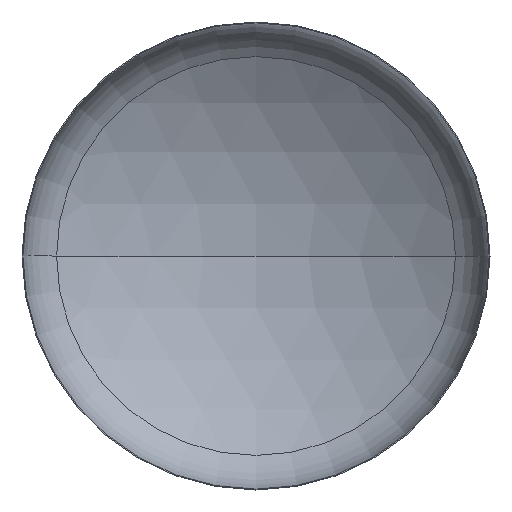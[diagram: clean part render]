
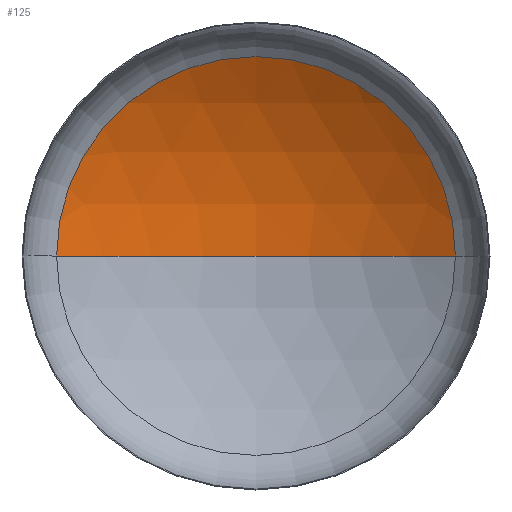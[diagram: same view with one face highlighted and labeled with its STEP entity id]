
A CAD part, front view. The second image highlights one B-rep face of the part: STEP entity #125.
In plain terms, the highlighted spherical face has radius 4800 mm.
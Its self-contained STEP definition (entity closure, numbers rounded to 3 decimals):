
#1 = CARTESIAN_POINT ( 'NONE',  ( 2556.697, 822.863, 0. ) ) ;
#23 = CARTESIAN_POINT ( 'NONE',  ( -2556.697, 822.863, 0. ) ) ;
#64 = AXIS2_PLACEMENT_3D ( 'NONE', #333, #194, #352 ) ;
#68 = AXIS2_PLACEMENT_3D ( 'NONE', #92, #308, #155 ) ;
#69 = DIRECTION ( 'NONE',  ( 0., 0., -1. ) ) ;
#72 = AXIS2_PLACEMENT_3D ( 'NONE', #215, #349, #267 ) ;
#92 = CARTESIAN_POINT ( 'NONE',  ( 0., -3239.562, 0. ) ) ;
#95 = VERTEX_POINT ( 'NONE', #23 ) ;
#99 = ORIENTED_EDGE ( 'NONE', *, *, #154, .T. ) ;
#102 = AXIS2_PLACEMENT_3D ( 'NONE', #301, #69, #127 ) ;
#106 = EDGE_LOOP ( 'NONE', ( #389, #124, #99 ) ) ;
#124 = ORIENTED_EDGE ( 'NONE', *, *, #157, .T. ) ;
#125 = ADVANCED_FACE ( 'NONE', ( #249 ), #310, .F. ) ;
#127 = DIRECTION ( 'NONE',  ( -1., 0., 0. ) ) ;
#133 = VERTEX_POINT ( 'NONE', #1 ) ;
#154 = EDGE_CURVE ( 'NONE', #133, #95, #242, .T. ) ;
#155 = DIRECTION ( 'NONE',  ( -1., 0., 0. ) ) ;
#157 = EDGE_CURVE ( 'NONE', #330, #133, #357, .T. ) ;
#165 = EDGE_CURVE ( 'NONE', #330, #95, #293, .T. ) ;
#194 = DIRECTION ( 'NONE',  ( 0., 0., 1. ) ) ;
#215 = CARTESIAN_POINT ( 'NONE',  ( 0., 822.863, 0. ) ) ;
#242 = CIRCLE ( 'NONE', #72, 2556.697 ) ;
#249 = FACE_OUTER_BOUND ( 'NONE', #106, .T. ) ;
#267 = DIRECTION ( 'NONE',  ( 1., 0., 0. ) ) ;
#293 = CIRCLE ( 'NONE', #64, 4800. ) ;
#301 = CARTESIAN_POINT ( 'NONE',  ( 0., -3239.562, 0. ) ) ;
#308 = DIRECTION ( 'NONE',  ( 0., 0., -1. ) ) ;
#310 = SPHERICAL_SURFACE ( 'NONE', #102, 4800. ) ;
#320 = CARTESIAN_POINT ( 'NONE',  ( 0., 1560.438, 0. ) ) ;
#330 = VERTEX_POINT ( 'NONE', #320 ) ;
#333 = CARTESIAN_POINT ( 'NONE',  ( 0., -3239.562, 0. ) ) ;
#349 = DIRECTION ( 'NONE',  ( 0., -1., 0. ) ) ;
#352 = DIRECTION ( 'NONE',  ( 1., 0., 0. ) ) ;
#357 = CIRCLE ( 'NONE', #68, 4800. ) ;
#389 = ORIENTED_EDGE ( 'NONE', *, *, #165, .F. ) ;
